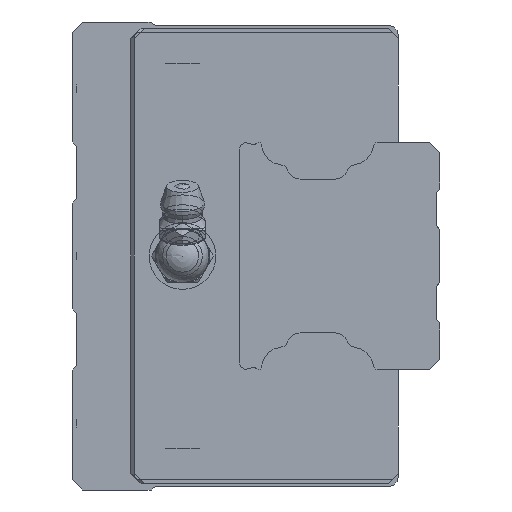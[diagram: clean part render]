
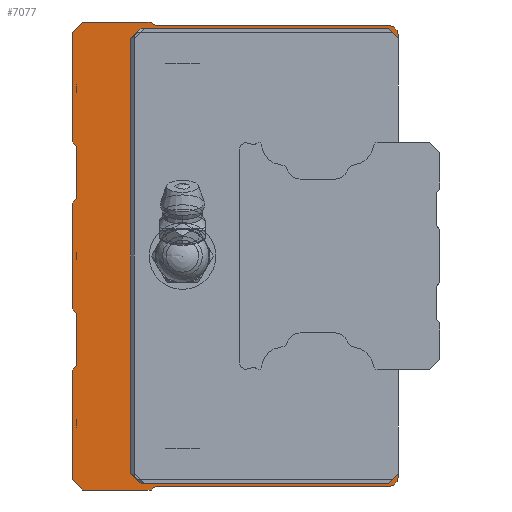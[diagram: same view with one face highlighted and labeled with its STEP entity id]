
A CAD part, left-side view. The second image highlights one B-rep face of the part: STEP entity #7077.
In plain terms, the highlighted planar face has unit normal (-1, 0, 0).
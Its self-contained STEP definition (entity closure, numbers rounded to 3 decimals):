
#78=LINE('',#11078,#556);
#87=LINE('',#11098,#565);
#96=LINE('',#11116,#574);
#122=LINE('',#11172,#600);
#130=LINE('',#11189,#608);
#138=LINE('',#11206,#616);
#163=LINE('',#11257,#641);
#168=LINE('',#11267,#646);
#172=LINE('',#11274,#650);
#176=LINE('',#11281,#654);
#180=LINE('',#11290,#658);
#183=LINE('',#11296,#661);
#187=LINE('',#11308,#665);
#191=LINE('',#11323,#669);
#195=LINE('',#11335,#673);
#198=LINE('',#11341,#676);
#201=LINE('',#11347,#679);
#204=LINE('',#11357,#682);
#207=LINE('',#11363,#685);
#211=LINE('',#11375,#689);
#215=LINE('',#11387,#693);
#218=LINE('',#11397,#696);
#221=LINE('',#11403,#699);
#225=LINE('',#11415,#703);
#229=LINE('',#11427,#707);
#232=LINE('',#11437,#710);
#556=VECTOR('',#8581,1000.);
#565=VECTOR('',#8596,1000.);
#574=VECTOR('',#8609,1000.);
#600=VECTOR('',#8649,1000.);
#608=VECTOR('',#8661,1000.);
#616=VECTOR('',#8675,1000.);
#641=VECTOR('',#8716,1000.);
#646=VECTOR('',#8723,1000.);
#650=VECTOR('',#8729,1000.);
#654=VECTOR('',#8735,1000.);
#658=VECTOR('',#8741,1000.);
#661=VECTOR('',#8746,1000.);
#665=VECTOR('',#8758,1000.);
#669=VECTOR('',#8776,1000.);
#673=VECTOR('',#8788,1000.);
#676=VECTOR('',#8793,1000.);
#679=VECTOR('',#8798,1000.);
#682=VECTOR('',#8807,1000.);
#685=VECTOR('',#8812,1000.);
#689=VECTOR('',#8824,1000.);
#693=VECTOR('',#8836,1000.);
#696=VECTOR('',#8845,1000.);
#699=VECTOR('',#8850,1000.);
#703=VECTOR('',#8862,1000.);
#707=VECTOR('',#8874,1000.);
#710=VECTOR('',#8883,1000.);
#1066=PLANE('',#7607);
#1597=CIRCLE('',#7563,0.6);
#1599=CIRCLE('',#7567,1.5);
#1601=CIRCLE('',#7570,1.5);
#1603=CIRCLE('',#7574,0.6);
#1607=CIRCLE('',#7584,0.6);
#1609=CIRCLE('',#7588,0.6);
#1613=CIRCLE('',#7596,0.6);
#1615=CIRCLE('',#7600,0.6);
#2347=ORIENTED_EDGE('',*,*,#4029,.T.);
#2348=ORIENTED_EDGE('',*,*,#4038,.T.);
#2349=ORIENTED_EDGE('',*,*,#4113,.F.);
#2350=ORIENTED_EDGE('',*,*,#4137,.F.);
#2351=ORIENTED_EDGE('',*,*,#4134,.F.);
#2352=ORIENTED_EDGE('',*,*,#4131,.T.);
#2353=ORIENTED_EDGE('',*,*,#4128,.F.);
#2354=ORIENTED_EDGE('',*,*,#4125,.F.);
#2355=ORIENTED_EDGE('',*,*,#4121,.F.);
#2356=ORIENTED_EDGE('',*,*,#4199,.F.);
#2357=ORIENTED_EDGE('',*,*,#4194,.F.);
#2358=ORIENTED_EDGE('',*,*,#4191,.T.);
#2359=ORIENTED_EDGE('',*,*,#4188,.F.);
#2360=ORIENTED_EDGE('',*,*,#4185,.T.);
#2361=ORIENTED_EDGE('',*,*,#4182,.F.);
#2362=ORIENTED_EDGE('',*,*,#4179,.F.);
#2363=ORIENTED_EDGE('',*,*,#4174,.F.);
#2364=ORIENTED_EDGE('',*,*,#4171,.T.);
#2365=ORIENTED_EDGE('',*,*,#4168,.F.);
#2366=ORIENTED_EDGE('',*,*,#4165,.T.);
#2367=ORIENTED_EDGE('',*,*,#4162,.F.);
#2368=ORIENTED_EDGE('',*,*,#4159,.F.);
#2369=ORIENTED_EDGE('',*,*,#4154,.F.);
#2370=ORIENTED_EDGE('',*,*,#4151,.F.);
#2371=ORIENTED_EDGE('',*,*,#4148,.F.);
#2372=ORIENTED_EDGE('',*,*,#4145,.T.);
#2373=ORIENTED_EDGE('',*,*,#4142,.F.);
#2374=ORIENTED_EDGE('',*,*,#4139,.F.);
#2375=ORIENTED_EDGE('',*,*,#4117,.F.);
#2376=ORIENTED_EDGE('',*,*,#4073,.T.);
#2377=ORIENTED_EDGE('',*,*,#4082,.T.);
#2378=ORIENTED_EDGE('',*,*,#4065,.T.);
#2379=ORIENTED_EDGE('',*,*,#4108,.T.);
#2380=ORIENTED_EDGE('',*,*,#4019,.T.);
#4019=EDGE_CURVE('',#5003,#5002,#78,.T.);
#4029=EDGE_CURVE('',#5002,#5010,#87,.T.);
#4038=EDGE_CURVE('',#5010,#5017,#96,.T.);
#4065=EDGE_CURVE('',#5041,#5040,#122,.T.);
#4073=EDGE_CURVE('',#5048,#5047,#130,.T.);
#4082=EDGE_CURVE('',#5047,#5041,#138,.T.);
#4108=EDGE_CURVE('',#5040,#5003,#163,.T.);
#4113=EDGE_CURVE('',#5075,#5017,#168,.T.);
#4117=EDGE_CURVE('',#5048,#5078,#172,.T.);
#4121=EDGE_CURVE('',#5080,#5081,#176,.T.);
#4125=EDGE_CURVE('',#5081,#5084,#180,.T.);
#4128=EDGE_CURVE('',#5084,#5086,#183,.T.);
#4131=EDGE_CURVE('',#5088,#5086,#1597,.T.);
#4134=EDGE_CURVE('',#5088,#5090,#187,.T.);
#4137=EDGE_CURVE('',#5090,#5075,#1599,.T.);
#4139=EDGE_CURVE('',#5078,#5092,#1601,.T.);
#4142=EDGE_CURVE('',#5092,#5094,#191,.T.);
#4145=EDGE_CURVE('',#5096,#5094,#1603,.T.);
#4148=EDGE_CURVE('',#5096,#5098,#195,.T.);
#4151=EDGE_CURVE('',#5098,#5100,#198,.T.);
#4154=EDGE_CURVE('',#5100,#5102,#201,.T.);
#4159=EDGE_CURVE('',#5102,#5106,#204,.T.);
#4162=EDGE_CURVE('',#5106,#5108,#207,.T.);
#4165=EDGE_CURVE('',#5110,#5108,#1607,.T.);
#4168=EDGE_CURVE('',#5110,#5112,#211,.T.);
#4171=EDGE_CURVE('',#5114,#5112,#1609,.T.);
#4174=EDGE_CURVE('',#5114,#5116,#215,.T.);
#4179=EDGE_CURVE('',#5116,#5120,#218,.T.);
#4182=EDGE_CURVE('',#5120,#5122,#221,.T.);
#4185=EDGE_CURVE('',#5124,#5122,#1613,.T.);
#4188=EDGE_CURVE('',#5124,#5126,#225,.T.);
#4191=EDGE_CURVE('',#5128,#5126,#1615,.T.);
#4194=EDGE_CURVE('',#5128,#5130,#229,.T.);
#4199=EDGE_CURVE('',#5130,#5080,#232,.T.);
#5002=VERTEX_POINT('',#11077);
#5003=VERTEX_POINT('',#11079);
#5010=VERTEX_POINT('',#11097);
#5017=VERTEX_POINT('',#11115);
#5040=VERTEX_POINT('',#11171);
#5041=VERTEX_POINT('',#11173);
#5047=VERTEX_POINT('',#11188);
#5048=VERTEX_POINT('',#11190);
#5075=VERTEX_POINT('',#11266);
#5078=VERTEX_POINT('',#11275);
#5080=VERTEX_POINT('',#11282);
#5081=VERTEX_POINT('',#11283);
#5084=VERTEX_POINT('',#11291);
#5086=VERTEX_POINT('',#11297);
#5088=VERTEX_POINT('',#11303);
#5090=VERTEX_POINT('',#11309);
#5092=VERTEX_POINT('',#11318);
#5094=VERTEX_POINT('',#11324);
#5096=VERTEX_POINT('',#11330);
#5098=VERTEX_POINT('',#11336);
#5100=VERTEX_POINT('',#11342);
#5102=VERTEX_POINT('',#11348);
#5106=VERTEX_POINT('',#11358);
#5108=VERTEX_POINT('',#11364);
#5110=VERTEX_POINT('',#11370);
#5112=VERTEX_POINT('',#11376);
#5114=VERTEX_POINT('',#11382);
#5116=VERTEX_POINT('',#11388);
#5120=VERTEX_POINT('',#11398);
#5122=VERTEX_POINT('',#11404);
#5124=VERTEX_POINT('',#11410);
#5126=VERTEX_POINT('',#11416);
#5128=VERTEX_POINT('',#11422);
#5130=VERTEX_POINT('',#11428);
#5783=EDGE_LOOP('',(#2347,#2348,#2349,#2350,#2351,#2352,#2353,#2354,#2355,
#2356,#2357,#2358,#2359,#2360,#2361,#2362,#2363,#2364,#2365,#2366,#2367,
#2368,#2369,#2370,#2371,#2372,#2373,#2374,#2375,#2376,#2377,#2378,#2379,
#2380));
#6424=FACE_BOUND('',#5783,.T.);
#7077=ADVANCED_FACE('',(#6424),#1066,.F.);
#7563=AXIS2_PLACEMENT_3D('',#11302,#8751,#8752);
#7567=AXIS2_PLACEMENT_3D('',#11314,#8763,#8764);
#7570=AXIS2_PLACEMENT_3D('',#11317,#8769,#8770);
#7574=AXIS2_PLACEMENT_3D('',#11329,#8781,#8782);
#7584=AXIS2_PLACEMENT_3D('',#11369,#8817,#8818);
#7588=AXIS2_PLACEMENT_3D('',#11381,#8829,#8830);
#7596=AXIS2_PLACEMENT_3D('',#11409,#8855,#8856);
#7600=AXIS2_PLACEMENT_3D('',#11421,#8867,#8868);
#7607=AXIS2_PLACEMENT_3D('',#11440,#8887,#8888);
#8581=DIRECTION('',(0.,-0.707,0.707));
#8596=DIRECTION('',(0.,-1.,0.));
#8609=DIRECTION('',(0.,-0.707,-0.707));
#8649=DIRECTION('',(0.,0.707,0.707));
#8661=DIRECTION('',(0.,0.707,-0.707));
#8675=DIRECTION('',(0.,1.,0.));
#8716=DIRECTION('',(0.,0.,1.));
#8723=DIRECTION('',(0.,0.,-1.));
#8729=DIRECTION('',(0.,0.,-1.));
#8735=DIRECTION('',(0.,-0.707,0.707));
#8741=DIRECTION('',(0.,-1.,0.));
#8746=DIRECTION('',(0.,-0.707,-0.707));
#8751=DIRECTION('',(1.,0.,0.));
#8752=DIRECTION('',(0.,0.,-1.));
#8758=DIRECTION('',(0.,-1.,0.));
#8763=DIRECTION('',(1.,0.,0.));
#8764=DIRECTION('',(0.,0.,-1.));
#8769=DIRECTION('',(1.,0.,0.));
#8770=DIRECTION('',(0.,0.,-1.));
#8776=DIRECTION('',(0.,1.,0.));
#8781=DIRECTION('',(1.,0.,0.));
#8782=DIRECTION('',(0.,0.,-1.));
#8788=DIRECTION('',(0.,0.707,-0.707));
#8793=DIRECTION('',(0.,1.,0.));
#8798=DIRECTION('',(0.,0.707,0.707));
#8807=DIRECTION('',(0.,0.,1.));
#8812=DIRECTION('',(0.,-0.707,0.707));
#8817=DIRECTION('',(1.,0.,0.));
#8818=DIRECTION('',(0.,0.,-1.));
#8824=DIRECTION('',(0.,0.,1.));
#8829=DIRECTION('',(1.,0.,0.));
#8830=DIRECTION('',(0.,0.,-1.));
#8836=DIRECTION('',(0.,0.707,0.707));
#8845=DIRECTION('',(0.,0.,1.));
#8850=DIRECTION('',(0.,-0.707,0.707));
#8855=DIRECTION('',(1.,0.,0.));
#8856=DIRECTION('',(0.,0.,-1.));
#8862=DIRECTION('',(0.,0.,1.));
#8867=DIRECTION('',(1.,0.,0.));
#8868=DIRECTION('',(0.,0.,-1.));
#8874=DIRECTION('',(0.,0.707,0.707));
#8883=DIRECTION('',(0.,0.,1.));
#8887=DIRECTION('',(1.,0.,0.));
#8888=DIRECTION('',(0.,0.,-1.));
#11077=CARTESIAN_POINT('',(-40.25,38.5,34.));
#11078=CARTESIAN_POINT('',(-40.25,40.,32.5));
#11079=CARTESIAN_POINT('',(-40.25,40.,32.5));
#11097=CARTESIAN_POINT('',(-40.25,1.5,34.));
#11098=CARTESIAN_POINT('',(-40.25,38.5,34.));
#11115=CARTESIAN_POINT('',(-40.25,0.,32.5));
#11116=CARTESIAN_POINT('',(-40.25,1.5,34.));
#11171=CARTESIAN_POINT('',(-40.25,40.,-32.5));
#11172=CARTESIAN_POINT('',(-40.25,38.5,-34.));
#11173=CARTESIAN_POINT('',(-40.25,38.5,-34.));
#11188=CARTESIAN_POINT('',(-40.25,1.5,-34.));
#11189=CARTESIAN_POINT('',(-40.25,0.,-32.5));
#11190=CARTESIAN_POINT('',(-40.25,0.,-32.5));
#11206=CARTESIAN_POINT('',(-40.25,1.5,-34.));
#11257=CARTESIAN_POINT('',(-40.25,40.,-32.5));
#11266=CARTESIAN_POINT('',(-40.25,0.,33.));
#11267=CARTESIAN_POINT('',(-40.25,0.,33.));
#11274=CARTESIAN_POINT('',(-40.25,0.,33.));
#11275=CARTESIAN_POINT('',(-40.25,0.,-33.));
#11281=CARTESIAN_POINT('',(-40.25,48.8,33.5));
#11282=CARTESIAN_POINT('',(-40.25,48.8,33.5));
#11283=CARTESIAN_POINT('',(-40.25,47.3,35.));
#11290=CARTESIAN_POINT('',(-40.25,47.3,35.));
#11291=CARTESIAN_POINT('',(-40.25,37.,35.));
#11296=CARTESIAN_POINT('',(-40.25,37.,35.));
#11297=CARTESIAN_POINT('',(-40.25,36.676,34.676));
#11302=CARTESIAN_POINT('',(-40.25,36.251,35.1));
#11303=CARTESIAN_POINT('',(-40.25,36.251,34.5));
#11308=CARTESIAN_POINT('',(-40.25,36.251,34.5));
#11309=CARTESIAN_POINT('',(-40.25,1.5,34.5));
#11314=CARTESIAN_POINT('',(-40.25,1.5,33.));
#11317=CARTESIAN_POINT('',(-40.25,1.5,-33.));
#11318=CARTESIAN_POINT('',(-40.25,1.5,-34.5));
#11323=CARTESIAN_POINT('',(-40.25,1.5,-34.5));
#11324=CARTESIAN_POINT('',(-40.25,36.251,-34.5));
#11329=CARTESIAN_POINT('',(-40.25,36.251,-35.1));
#11330=CARTESIAN_POINT('',(-40.25,36.676,-34.676));
#11335=CARTESIAN_POINT('',(-40.25,36.676,-34.676));
#11336=CARTESIAN_POINT('',(-40.25,37.,-35.));
#11341=CARTESIAN_POINT('',(-40.25,37.,-35.));
#11342=CARTESIAN_POINT('',(-40.25,47.3,-35.));
#11347=CARTESIAN_POINT('',(-40.25,47.3,-35.));
#11348=CARTESIAN_POINT('',(-40.25,48.8,-33.5));
#11357=CARTESIAN_POINT('',(-40.25,48.8,-33.5));
#11358=CARTESIAN_POINT('',(-40.25,48.8,-17.1));
#11363=CARTESIAN_POINT('',(-40.25,48.8,-17.1));
#11364=CARTESIAN_POINT('',(-40.25,48.376,-16.676));
#11369=CARTESIAN_POINT('',(-40.25,48.8,-16.251));
#11370=CARTESIAN_POINT('',(-40.25,48.2,-16.251));
#11375=CARTESIAN_POINT('',(-40.25,48.2,-16.251));
#11376=CARTESIAN_POINT('',(-40.25,48.2,-8.749));
#11381=CARTESIAN_POINT('',(-40.25,48.8,-8.749));
#11382=CARTESIAN_POINT('',(-40.25,48.376,-8.324));
#11387=CARTESIAN_POINT('',(-40.25,48.376,-8.324));
#11388=CARTESIAN_POINT('',(-40.25,48.8,-7.9));
#11397=CARTESIAN_POINT('',(-40.25,48.8,-7.9));
#11398=CARTESIAN_POINT('',(-40.25,48.8,7.9));
#11403=CARTESIAN_POINT('',(-40.25,48.8,7.9));
#11404=CARTESIAN_POINT('',(-40.25,48.376,8.324));
#11409=CARTESIAN_POINT('',(-40.25,48.8,8.749));
#11410=CARTESIAN_POINT('',(-40.25,48.2,8.749));
#11415=CARTESIAN_POINT('',(-40.25,48.2,8.749));
#11416=CARTESIAN_POINT('',(-40.25,48.2,16.251));
#11421=CARTESIAN_POINT('',(-40.25,48.8,16.251));
#11422=CARTESIAN_POINT('',(-40.25,48.376,16.676));
#11427=CARTESIAN_POINT('',(-40.25,48.376,16.676));
#11428=CARTESIAN_POINT('',(-40.25,48.8,17.1));
#11437=CARTESIAN_POINT('',(-40.25,48.8,17.1));
#11440=CARTESIAN_POINT('',(-40.25,36.251,35.1));
